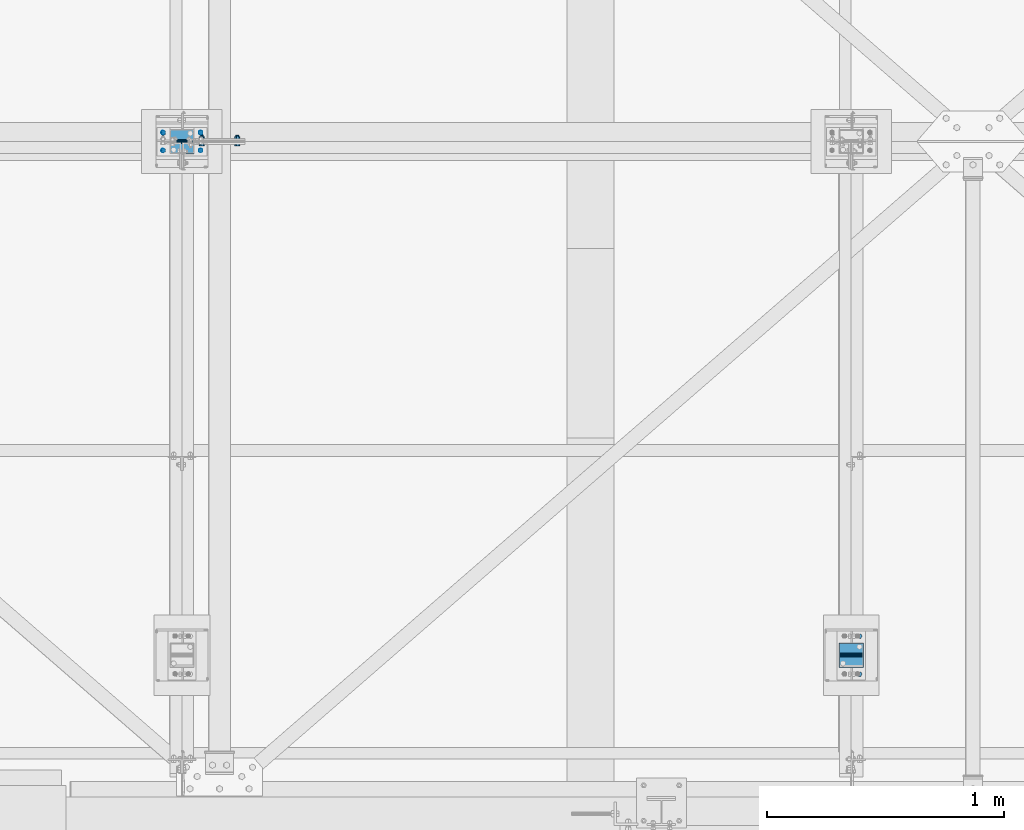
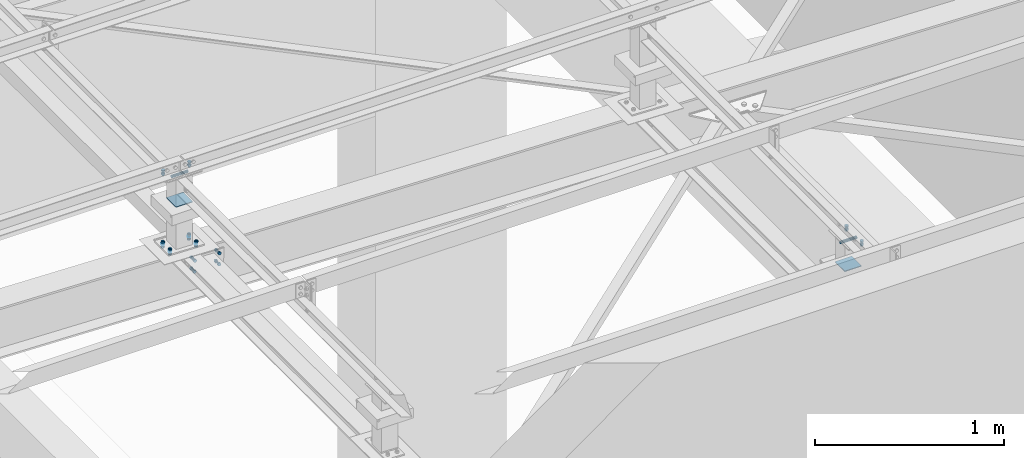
# One storey, part 229 of 3134: 9 mechanical fasteners, 7 elements without a shape of their own.
"""IFC2X3 building model written with IfcOpenShell, lengths in millimetres."""

from ifc_helpers import new_model, si_unit, frame, origin_with_axes, place, context, subcontext, project, spatial, faceted_brep, source, transform, mapped, material, type_object, element, aggregate, save


model = new_model("IFC2X3")

# Units and contexts
model_context = context("Model", 3, precision=1e-05, world=origin_with_axes())
body_context = subcontext(model_context, "Body", "Model", "MODEL_VIEW")
ifc_project = project(units=[si_unit("LENGTHUNIT", "METRE", prefix="MILLI"), si_unit("AREAUNIT", "SQUARE_METRE"), si_unit("VOLUMEUNIT", "CUBIC_METRE"), si_unit("MASSUNIT", "GRAM", prefix="KILO"), si_unit("TIMEUNIT", "SECOND"), si_unit("PLANEANGLEUNIT", "RADIAN"), si_unit("SOLIDANGLEUNIT", "STERADIAN"), si_unit("THERMODYNAMICTEMPERATUREUNIT", "DEGREE_CELSIUS"), si_unit("LUMINOUSINTENSITYUNIT", "LUMEN")], contexts=[model_context])

# Site, building, storey
site_placement = place(None, origin_with_axes())
site = spatial("IfcSite", under=ifc_project, at=site_placement, CompositionType="ELEMENT")
building_placement = place(site_placement, origin_with_axes())
building = spatial("IfcBuilding", under=site, at=building_placement, Name="Undefined", CompositionType="ELEMENT")
storey_placement = place(building_placement, origin_with_axes())
storey = spatial("IfcBuildingStorey", under=building, at=storey_placement, Name="Undefined", CompositionType="ELEMENT", Elevation=0.0)

# Assembly, mechanical fastener
assembly_1_placement = place(storey_placement, origin_with_axes())
assembly_1 = element("IfcElementAssembly", 1, at=assembly_1_placement, inside=storey, AssemblyPlace="NOTDEFINED", PredefinedType="RIGID_FRAME")
ifc_material_1 = material(Name="8.8")
mechanical_fastener_type = type_object("IfcMechanicalFastenerType", Name="Bolt assembly")
shared_shape_1 = source(origin_with_axes(), body_context, "Body", "Brep", [
    faceted_brep([(10.9696551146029, -14.0, 0.0), (5.48482755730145, -14.0, 9.5), (-5.48482755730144, -14.0, 9.5), (-10.9696551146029, -14.0, 1.34339530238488e-15), (-5.48482755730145, -14.0, -9.5), (5.48482755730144, -14.0, -9.50000000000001), (5.48482755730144, -6.0, -9.50000000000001), (-5.48482755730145, -6.0, -9.5), (-10.9696551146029, -6.0, 1.34339530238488e-15), (-5.48482755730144, -6.0, 9.5), (5.48482755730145, -6.0, 9.5), (10.9696551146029, -6.0, 0.0), (6.0, -6.0, 0.0), (5.19615242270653, -6.0, 3.00000000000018), (2.99999999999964, -6.0, 5.19615242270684), (-6.21801588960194e-13, -6.0, 6.0), (-3.00000000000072, -6.0, 5.19615242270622), (-5.19615242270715, -6.0, 2.9999999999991), (-6.0, -6.0, -1.24360317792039e-12), (-5.19615242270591, -6.0, -3.00000000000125), (-2.99999999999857, -6.0, -5.19615242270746), (1.85874342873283e-12, -6.0, -6.0), (3.00000000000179, -6.0, -5.1961524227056), (5.19615242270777, -6.0, -2.99999999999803), (5.19615242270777, 24.0, -2.99999999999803), (3.00000000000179, 24.0, -5.1961524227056), (1.85874342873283e-12, 24.0, -6.0), (-2.99999999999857, 24.0, -5.19615242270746), (-5.19615242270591, 24.0, -3.00000000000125), (-6.0, 24.0, -1.24360317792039e-12), (-5.19615242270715, 24.0, 2.9999999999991), (-3.00000000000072, 24.0, 5.19615242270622), (-6.21801588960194e-13, 24.0, 6.0), (2.99999999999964, 24.0, 5.19615242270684), (5.19615242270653, 24.0, 3.00000000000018), (6.0, 24.0, 0.0), (10.9696551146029, 6.00000000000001, 0.0), (5.48482755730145, 6.00000000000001, 9.5), (-5.48482755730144, 6.00000000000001, 9.5), (-10.9696551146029, 6.00000000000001, 1.34339530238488e-15), (-5.48482755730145, 6.00000000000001, -9.5), (5.48482755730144, 6.00000000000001, -9.50000000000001), (5.48482755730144, 16.0, -9.50000000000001), (-5.48482755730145, 16.0, -9.5), (-10.9696551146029, 16.0, 1.34339530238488e-15), (-5.48482755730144, 16.0, 9.5), (5.48482755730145, 16.0, 9.5), (10.9696551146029, 16.0, 0.0)], [[[0, 1, 2, 3, 4, 5]], [[6, 7, 8, 9, 10, 11]], [[0, 11, 10, 1]], [[1, 10, 9, 2]], [[2, 9, 8, 3]], [[3, 8, 7, 4]], [[4, 7, 6, 5]], [[5, 6, 11, 0]], [[12, 13, 14, 15, 16, 17, 18, 19, 20, 21, 22, 23]], [[24, 25, 26, 27, 28, 29, 30, 31, 32, 33, 34, 35]], [[12, 35, 34, 13]], [[13, 34, 33, 14]], [[14, 33, 32, 15]], [[15, 32, 31, 16]], [[16, 31, 30, 17]], [[17, 30, 29, 18]], [[18, 29, 28, 19]], [[19, 28, 27, 20]], [[20, 27, 26, 21]], [[21, 26, 25, 22]], [[22, 25, 24, 23]], [[23, 24, 35, 12]], [[36, 37, 38, 39, 40, 41]], [[42, 43, 44, 45, 46, 47]], [[36, 47, 46, 37]], [[37, 46, 45, 38]], [[38, 45, 44, 39]], [[39, 44, 43, 40]], [[40, 43, 42, 41]], [[41, 42, 47, 36]]]),
    faceted_brep([(7.0, -0.1, 0.0), (6.06217782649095, -0.1, 3.50000000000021), (3.49999999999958, -0.1, 6.06217782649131), (-7.25435187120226e-13, -0.1, 7.0), (-3.50000000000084, -0.1, 6.06217782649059), (-6.06217782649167, -0.1, 3.49999999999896), (-7.0, -0.1, -1.45087037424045e-12), (-6.06217782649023, -0.1, -3.50000000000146), (-3.49999999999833, -0.1, -6.06217782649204), (2.1685340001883e-12, -0.1, -7.0), (3.50000000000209, -0.1, -6.06217782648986), (6.0621778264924, -0.1, -3.4999999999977), (6.0621778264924, 6.00000000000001, -3.4999999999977), (3.50000000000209, 6.00000000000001, -6.06217782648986), (2.1685340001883e-12, 6.00000000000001, -7.0), (-3.49999999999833, 6.00000000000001, -6.06217782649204), (-6.06217782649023, 6.00000000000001, -3.50000000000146), (-7.0, 6.00000000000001, -1.45087037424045e-12), (-6.06217782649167, 6.00000000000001, 3.49999999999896), (-3.50000000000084, 6.00000000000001, 6.06217782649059), (-7.25435187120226e-13, 6.00000000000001, 7.0), (3.49999999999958, 6.00000000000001, 6.06217782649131), (6.06217782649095, 6.00000000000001, 3.50000000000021), (7.0, 6.00000000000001, 0.0), (7.0, -5.9, 0.0), (6.06217782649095, -5.9, 3.50000000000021), (3.49999999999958, -5.9, 6.06217782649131), (-7.25435187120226e-13, -5.9, 7.0), (-3.50000000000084, -5.9, 6.06217782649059), (-6.06217782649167, -5.9, 3.49999999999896), (-7.0, -5.9, -1.45087037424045e-12), (-6.06217782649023, -5.9, -3.50000000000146), (-3.49999999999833, -5.9, -6.06217782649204), (2.1685340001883e-12, -5.9, -7.0), (3.50000000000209, -5.9, -6.06217782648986), (6.0621778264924, -5.9, -3.4999999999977), (6.0621778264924, 0.0999999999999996, -3.4999999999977), (3.50000000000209, 0.0999999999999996, -6.06217782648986), (2.1685340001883e-12, 0.0999999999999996, -7.0), (-3.49999999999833, 0.0999999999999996, -6.06217782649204), (-6.06217782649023, 0.0999999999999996, -3.50000000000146), (-7.0, 0.0999999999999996, -1.45087037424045e-12), (-6.06217782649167, 0.0999999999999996, 3.49999999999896), (-3.50000000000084, 0.0999999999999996, 6.06217782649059), (-7.25435187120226e-13, 0.0999999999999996, 7.0), (3.49999999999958, 0.0999999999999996, 6.06217782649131), (6.06217782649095, 0.0999999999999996, 3.50000000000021), (7.0, 0.0999999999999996, 0.0)], [[[0, 1, 2, 3, 4, 5, 6, 7, 8, 9, 10, 11]], [[12, 13, 14, 15, 16, 17, 18, 19, 20, 21, 22, 23]], [[0, 23, 22, 1]], [[1, 22, 21, 2]], [[2, 21, 20, 3]], [[3, 20, 19, 4]], [[4, 19, 18, 5]], [[5, 18, 17, 6]], [[6, 17, 16, 7]], [[7, 16, 15, 8]], [[8, 15, 14, 9]], [[9, 14, 13, 10]], [[10, 13, 12, 11]], [[11, 12, 23, 0]], [[24, 25, 26, 27, 28, 29, 30, 31, 32, 33, 34, 35]], [[36, 37, 38, 39, 40, 41, 42, 43, 44, 45, 46, 47]], [[24, 47, 46, 25]], [[25, 46, 45, 26]], [[26, 45, 44, 27]], [[27, 44, 43, 28]], [[28, 43, 42, 29]], [[29, 42, 41, 30]], [[30, 41, 40, 31]], [[31, 40, 39, 32]], [[32, 39, 38, 33]], [[33, 38, 37, 34]], [[34, 37, 36, 35]], [[35, 36, 47, 24]]]),
])
mechanical_fastener_1_placement = place(assembly_1_placement, frame((28882.0, 50520.0, 10765.0), z_axis=(0.0, -1.0, 0.0), x_axis=(-1.0, 0.0, 0.0)))
mechanical_fastener_1 = element("IfcMechanicalFastener", 2, at=mechanical_fastener_1_placement, type_object=mechanical_fastener_type, material=ifc_material_1, Name="Bolt assembly", NominalDiameter=12.0, NominalLength=30.0, context=body_context, shape_type="MappedRepresentation", body=[
    mapped(shared_shape_1, transform((0.0, -5.32963895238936e-10, -79.9999999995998))),
    mapped(shared_shape_1, transform((0.0, 5.3114490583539e-10, 79.9999999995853))),
])
aggregate(assembly_1, [mechanical_fastener_1])

assembly_2_placement = place(storey_placement, origin_with_axes())
assembly_2 = element("IfcElementAssembly", 3, at=assembly_2_placement, inside=storey, AssemblyPlace="NOTDEFINED", PredefinedType="RIGID_FRAME")
mechanical_fastener_2_placement = place(assembly_2_placement, frame((26019.0, 52725.0, 10865.0), z_axis=(1.0, 0.0, 0.0), x_axis=(0.0, -1.0, 0.0)))
mechanical_fastener_2 = element("IfcMechanicalFastener", 4, at=mechanical_fastener_2_placement, type_object=mechanical_fastener_type, material=ifc_material_1, Name="Bolt assembly", NominalDiameter=12.0, NominalLength=30.0, context=body_context, shape_type="MappedRepresentation", body=[
    mapped(shared_shape_1, transform((0.0, -5.32963895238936e-10, -79.9999999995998))),
    mapped(shared_shape_1, transform((0.0, 5.3114490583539e-10, 79.9999999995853))),
])
aggregate(assembly_2, [mechanical_fastener_2])

assembly_3_placement = place(storey_placement, origin_with_axes())
assembly_3 = element("IfcElementAssembly", 5, at=assembly_3_placement, inside=storey, AssemblyPlace="NOTDEFINED", PredefinedType="RIGID_FRAME")
shared_shape_2 = source(origin_with_axes(), body_context, "Body", "Brep", [
    faceted_brep([(7.0, 13.0000253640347, 0.0), (6.06217782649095, 13.0000253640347, 3.50000000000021), (3.49999999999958, 13.0000253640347, 6.06217782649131), (-7.25435187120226e-13, 13.0000253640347, 7.0), (-3.50000000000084, 13.0000253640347, 6.06217782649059), (-6.06217782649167, 13.0000253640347, 3.49999999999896), (-7.0, 13.0000253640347, -1.45087037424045e-12), (-6.06217782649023, 13.0000253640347, -3.50000000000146), (-3.49999999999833, 13.0000253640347, -6.06217782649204), (2.1685340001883e-12, 13.0000253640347, -7.0), (3.50000000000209, 13.0000253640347, -6.06217782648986), (6.0621778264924, 13.0000253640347, -3.4999999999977), (6.0621778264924, 15.0999999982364, -3.4999999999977), (3.50000000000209, 15.0999999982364, -6.06217782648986), (2.1685340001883e-12, 15.0999999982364, -7.0), (-3.49999999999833, 15.0999999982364, -6.06217782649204), (-6.06217782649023, 15.0999999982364, -3.50000000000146), (-7.0, 15.0999999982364, -1.45087037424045e-12), (-6.06217782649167, 15.0999999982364, 3.49999999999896), (-3.50000000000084, 15.0999999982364, 6.06217782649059), (-7.25435187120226e-13, 15.0999999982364, 7.0), (3.49999999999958, 15.0999999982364, 6.06217782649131), (6.06217782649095, 15.0999999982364, 3.50000000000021), (7.0, 15.0999999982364, 0.0)], [[[0, 1, 2, 3, 4, 5, 6, 7, 8, 9, 10, 11]], [[12, 13, 14, 15, 16, 17, 18, 19, 20, 21, 22, 23]], [[0, 23, 22, 1]], [[1, 22, 21, 2]], [[2, 21, 20, 3]], [[3, 20, 19, 4]], [[4, 19, 18, 5]], [[5, 18, 17, 6]], [[6, 17, 16, 7]], [[7, 16, 15, 8]], [[8, 15, 14, 9]], [[9, 14, 13, 10]], [[10, 13, 12, 11]], [[11, 12, 23, 0]]]),
])
mechanical_fastener_3_placement = place(assembly_3_placement, frame((26018.2251187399, 52728.0, 10379.5372055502), z_axis=(-0.99951962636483, 0.0, 0.0309922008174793), x_axis=(0.0, -1.0, 0.0)))
mechanical_fastener_3 = element("IfcMechanicalFastener", 6, at=mechanical_fastener_3_placement, type_object=mechanical_fastener_type, material=ifc_material_1, Name="Bolt assembly", NominalDiameter=12.0, NominalLength=2.0, context=body_context, shape_type="MappedRepresentation", body=[
    mapped(shared_shape_2, transform((0.0, -5.32963895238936e-10, -79.9999999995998))),
    mapped(shared_shape_2, transform((76.0, -5.32963895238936e-10, -79.9999999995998))),
    mapped(shared_shape_2, transform((0.0, 5.3114490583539e-10, 79.9999999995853))),
    mapped(shared_shape_2, transform((76.0, 5.3114490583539e-10, 79.9999999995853))),
])
aggregate(assembly_3, [mechanical_fastener_3])

assembly_4_placement = place(storey_placement, origin_with_axes())
assembly_4 = element("IfcElementAssembly", 7, at=assembly_4_placement, inside=storey, AssemblyPlace="NOTDEFINED", PredefinedType="RIGID_FRAME")
shared_shape_3 = source(origin_with_axes(), body_context, "Body", "Brep", [
    faceted_brep([(9.0, -50.0, 0.0), (7.79422863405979, -50.0, 4.50000000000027), (4.49999999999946, -50.0, 7.79422863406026), (-9.3270238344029e-13, -50.0, 9.0), (-4.50000000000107, -50.0, 7.79422863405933), (-7.79422863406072, -50.0, 4.49999999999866), (-9.0, -50.0, -1.86540476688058e-12), (-7.79422863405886, -50.0, -4.50000000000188), (-4.49999999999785, -50.0, -7.79422863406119), (2.78811514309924e-12, -50.0, -9.0), (4.50000000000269, -50.0, -7.7942286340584), (7.79422863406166, -50.0, -4.49999999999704), (7.79422863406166, 50.1, -4.49999999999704), (4.50000000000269, 50.1, -7.7942286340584), (2.78811514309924e-12, 50.1, -9.0), (-4.49999999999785, 50.1, -7.79422863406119), (-7.79422863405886, 50.1, -4.50000000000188), (-9.0, 50.1, -1.86540476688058e-12), (-7.79422863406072, 50.1, 4.49999999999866), (-4.50000000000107, 50.1, 7.79422863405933), (-9.3270238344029e-13, 50.1, 9.0), (4.49999999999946, 50.1, 7.79422863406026), (7.79422863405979, 50.1, 4.50000000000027), (9.0, 50.1, 0.0)], [[[0, 1, 2, 3, 4, 5, 6, 7, 8, 9, 10, 11]], [[12, 13, 14, 15, 16, 17, 18, 19, 20, 21, 22, 23]], [[0, 23, 22, 1]], [[1, 22, 21, 2]], [[2, 21, 20, 3]], [[3, 20, 19, 4]], [[4, 19, 18, 5]], [[5, 18, 17, 6]], [[6, 17, 16, 7]], [[7, 16, 15, 8]], [[8, 15, 14, 9]], [[9, 14, 13, 10]], [[10, 13, 12, 11]], [[11, 12, 23, 0]]]),
])
mechanical_fastener_4_placement = place(assembly_4_placement, frame((28847.0, 50520.0, 10745.0), z_axis=(0.0, 1.0, 0.0), x_axis=(0.0, 0.0, 1.0)))
mechanical_fastener_4 = element("IfcMechanicalFastener", 8, at=mechanical_fastener_4_placement, type_object=mechanical_fastener_type, material=ifc_material_1, Name="Bolt assembly", NominalDiameter=16.0, NominalLength=100.0, context=body_context, shape_type="MappedRepresentation", body=[
    mapped(shared_shape_3, transform((0.0, 0.0, 0.0))),
])

assembly_5_placement = place(storey_placement, origin_with_axes())
assembly_5 = element("IfcElementAssembly", 9, at=assembly_5_placement, inside=storey, AssemblyPlace="NOTDEFINED", PredefinedType="RIGID_FRAME")
mechanical_fastener_5_placement = place(assembly_5_placement, frame((26019.0, 52690.0, 10845.0), z_axis=(0.0, 1.0, 0.0), x_axis=(0.0, 0.0, 1.0)))
mechanical_fastener_5 = element("IfcMechanicalFastener", 10, at=mechanical_fastener_5_placement, type_object=mechanical_fastener_type, material=ifc_material_1, Name="Bolt assembly", NominalDiameter=16.0, NominalLength=100.0, context=body_context, shape_type="MappedRepresentation", body=[
    mapped(shared_shape_3, transform((0.0, 0.0, 0.0))),
])

# Mechanical fastener
ifc_material_2 = material(Name="6.8")
shared_shape_4 = source(origin_with_axes(), body_context, "Body", "Brep", [
    faceted_brep([(51.5, 1.36424205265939e-12, 50.0), (51.3858192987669, 1.36424205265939e-12, 50.5740251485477), (51.0606601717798, 1.36424205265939e-12, 51.0606601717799), (50.5740251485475, 1.36424205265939e-12, 51.385819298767), (-50.0000000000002, 1.36424205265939e-12, 51.5), (-50.7500000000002, 1.36424205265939e-12, 51.2990381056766), (-51.2990381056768, 1.36424205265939e-12, 50.7499999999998), (-51.5, 1.36424205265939e-12, 49.9999999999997), (-51.5, 1.36424205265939e-12, -50.0000000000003), (-51.2990381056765, 1.36424205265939e-12, -50.7500000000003), (-50.7499999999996, 1.36424205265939e-12, -51.2990381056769), (-49.9999999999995, 1.36424205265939e-12, -51.5), (50.0000000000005, 1.36424205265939e-12, -51.5), (50.7500000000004, 1.36424205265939e-12, -51.2990381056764), (51.2990381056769, 1.36424205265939e-12, -50.7499999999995), (51.5, 1.36424205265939e-12, -49.9999999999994), (51.5, 5.10000000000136, -49.9999999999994), (51.2990381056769, 5.10000000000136, -50.7499999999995), (50.7500000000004, 5.10000000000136, -51.2990381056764), (50.0000000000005, 5.10000000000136, -51.5), (-49.9999999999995, 5.10000000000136, -51.5), (-50.7499999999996, 5.10000000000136, -51.2990381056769), (-51.2990381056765, 5.10000000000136, -50.7500000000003), (-51.5, 5.10000000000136, -50.0000000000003), (-51.5, 5.10000000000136, 49.9999999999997), (-51.2990381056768, 5.10000000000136, 50.7499999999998), (-50.7500000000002, 5.10000000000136, 51.2990381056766), (-50.0000000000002, 5.10000000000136, 51.5), (50.5740251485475, 5.10000000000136, 51.385819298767), (51.0606601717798, 5.10000000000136, 51.0606601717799), (51.3858192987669, 5.10000000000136, 50.5740251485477), (51.5, 5.10000000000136, 50.0)], [[[0, 1, 2, 3, 4, 5, 6, 7, 8, 9, 10, 11, 12, 13, 14, 15]], [[16, 17, 18, 19, 20, 21, 22, 23, 24, 25, 26, 27, 28, 29, 30, 31]], [[0, 31, 30, 1]], [[1, 30, 29, 2]], [[2, 29, 28, 3]], [[3, 28, 27, 4]], [[4, 27, 26, 5]], [[5, 26, 25, 6]], [[6, 25, 24, 7]], [[7, 24, 23, 8]], [[8, 23, 22, 9]], [[9, 22, 21, 10]], [[10, 21, 20, 11]], [[11, 20, 19, 12]], [[12, 19, 18, 13]], [[13, 18, 17, 14]], [[14, 17, 16, 15]], [[15, 16, 31, 0]]]),
])
mechanical_fastener_6_placement = place(assembly_4_placement, frame((28847.0, 50520.0, 10591.54), z_axis=(0.0, -1.0, 0.0), x_axis=(-1.0, 0.0, 0.0)))
mechanical_fastener_6 = element("IfcMechanicalFastener", 11, at=mechanical_fastener_6_placement, type_object=mechanical_fastener_type, material=ifc_material_2, Name="Bolt assembly", NominalDiameter=10.0, NominalLength=5.0, context=body_context, shape_type="MappedRepresentation", body=[
    mapped(shared_shape_4, transform((0.0, 0.0, 0.0))),
])

aggregate(assembly_4, [mechanical_fastener_4, mechanical_fastener_6])

mechanical_fastener_7_placement = place(assembly_5_placement, frame((26019.0, 52690.0, 10679.21), z_axis=(0.0, -1.0, 0.0), x_axis=(-1.0, 0.0, 0.0)))
mechanical_fastener_7 = element("IfcMechanicalFastener", 12, at=mechanical_fastener_7_placement, type_object=mechanical_fastener_type, material=ifc_material_2, Name="Bolt assembly", NominalDiameter=10.0, NominalLength=5.0, context=body_context, shape_type="MappedRepresentation", body=[
    mapped(shared_shape_4, transform((0.0, 0.0, 0.0))),
])

aggregate(assembly_5, [mechanical_fastener_5, mechanical_fastener_7])

# Assembly, mechanical fastener
assembly_6_placement = place(storey_placement, origin_with_axes())
assembly_6 = element("IfcElementAssembly", 13, at=assembly_6_placement, inside=storey, AssemblyPlace="NOTDEFINED", PredefinedType="RIGID_FRAME")
shared_shape_5 = source(origin_with_axes(), body_context, "Body", "Brep", [
    faceted_brep([(10.9696551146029, -19.75, 0.0), (5.48482755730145, -19.75, 9.5), (-5.48482755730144, -19.75, 9.5), (-10.9696551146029, -19.75, 1.34339530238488e-15), (-5.48482755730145, -19.75, -9.5), (5.48482755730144, -19.75, -9.50000000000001), (5.48482755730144, -11.75, -9.50000000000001), (-5.48482755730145, -11.75, -9.5), (-10.9696551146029, -11.75, 1.34339530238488e-15), (-5.48482755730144, -11.75, 9.5), (5.48482755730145, -11.75, 9.5), (10.9696551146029, -11.75, 0.0), (6.0, -11.75, 0.0), (5.19615242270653, -11.75, 3.00000000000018), (2.99999999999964, -11.75, 5.19615242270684), (-6.21801588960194e-13, -11.75, 6.0), (-3.00000000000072, -11.75, 5.19615242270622), (-5.19615242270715, -11.75, 2.9999999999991), (-6.0, -11.75, -1.24360317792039e-12), (-5.19615242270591, -11.75, -3.00000000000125), (-2.99999999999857, -11.75, -5.19615242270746), (1.85874342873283e-12, -11.75, -6.0), (3.00000000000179, -11.75, -5.1961524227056), (5.19615242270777, -11.75, -2.99999999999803), (5.19615242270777, 28.25, -2.99999999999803), (3.00000000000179, 28.25, -5.1961524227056), (1.85874342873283e-12, 28.25, -6.0), (-2.99999999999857, 28.25, -5.19615242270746), (-5.19615242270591, 28.25, -3.00000000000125), (-6.0, 28.25, -1.24360317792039e-12), (-5.19615242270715, 28.25, 2.9999999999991), (-3.00000000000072, 28.25, 5.19615242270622), (-6.21801588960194e-13, 28.25, 6.0), (2.99999999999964, 28.25, 5.19615242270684), (5.19615242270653, 28.25, 3.00000000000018), (6.0, 28.25, 0.0), (10.9696551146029, 11.75, 0.0), (5.48482755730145, 11.75, 9.5), (-5.48482755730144, 11.75, 9.5), (-10.9696551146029, 11.75, 1.34339530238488e-15), (-5.48482755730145, 11.75, -9.5), (5.48482755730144, 11.75, -9.50000000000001), (5.48482755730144, 21.75, -9.50000000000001), (-5.48482755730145, 21.75, -9.5), (-10.9696551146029, 21.75, 1.34339530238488e-15), (-5.48482755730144, 21.75, 9.5), (5.48482755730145, 21.75, 9.5), (10.9696551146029, 21.75, 0.0)], [[[0, 1, 2, 3, 4, 5]], [[6, 7, 8, 9, 10, 11]], [[0, 11, 10, 1]], [[1, 10, 9, 2]], [[2, 9, 8, 3]], [[3, 8, 7, 4]], [[4, 7, 6, 5]], [[5, 6, 11, 0]], [[12, 13, 14, 15, 16, 17, 18, 19, 20, 21, 22, 23]], [[24, 25, 26, 27, 28, 29, 30, 31, 32, 33, 34, 35]], [[12, 35, 34, 13]], [[13, 34, 33, 14]], [[14, 33, 32, 15]], [[15, 32, 31, 16]], [[16, 31, 30, 17]], [[17, 30, 29, 18]], [[18, 29, 28, 19]], [[19, 28, 27, 20]], [[20, 27, 26, 21]], [[21, 26, 25, 22]], [[22, 25, 24, 23]], [[23, 24, 35, 12]], [[36, 37, 38, 39, 40, 41]], [[42, 43, 44, 45, 46, 47]], [[36, 47, 46, 37]], [[37, 46, 45, 38]], [[38, 45, 44, 39]], [[39, 44, 43, 40]], [[40, 43, 42, 41]], [[41, 42, 47, 36]]]),
    faceted_brep([(7.0, -3.75, 0.0), (6.06217782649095, -3.75, 3.50000000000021), (3.49999999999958, -3.75, 6.06217782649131), (-7.25435187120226e-13, -3.75, 7.0), (-3.50000000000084, -3.75, 6.06217782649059), (-6.06217782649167, -3.75, 3.49999999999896), (-7.0, -3.75, -1.45087037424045e-12), (-6.06217782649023, -3.75, -3.50000000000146), (-3.49999999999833, -3.75, -6.06217782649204), (2.1685340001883e-12, -3.75, -7.0), (3.50000000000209, -3.75, -6.06217782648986), (6.0621778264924, -3.75, -3.4999999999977), (6.0621778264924, 3.75, -3.4999999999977), (3.50000000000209, 3.75, -6.06217782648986), (2.1685340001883e-12, 3.75, -7.0), (-3.49999999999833, 3.75, -6.06217782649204), (-6.06217782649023, 3.75, -3.50000000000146), (-7.0, 3.75, -1.45087037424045e-12), (-6.06217782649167, 3.75, 3.49999999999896), (-3.50000000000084, 3.75, 6.06217782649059), (-7.25435187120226e-13, 3.75, 7.0), (3.49999999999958, 3.75, 6.06217782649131), (6.06217782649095, 3.75, 3.50000000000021), (7.0, 3.75, 0.0), (7.0, -11.65, 0.0), (6.06217782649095, -11.65, 3.50000000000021), (3.49999999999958, -11.65, 6.06217782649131), (-7.25435187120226e-13, -11.65, 7.0), (-3.50000000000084, -11.65, 6.06217782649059), (-6.06217782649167, -11.65, 3.49999999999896), (-7.0, -11.65, -1.45087037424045e-12), (-6.06217782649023, -11.65, -3.50000000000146), (-3.49999999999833, -11.65, -6.06217782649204), (2.1685340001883e-12, -11.65, -7.0), (3.50000000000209, -11.65, -6.06217782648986), (6.0621778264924, -11.65, -3.4999999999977), (6.0621778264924, -3.65, -3.4999999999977), (3.50000000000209, -3.65, -6.06217782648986), (2.1685340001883e-12, -3.65, -7.0), (-3.49999999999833, -3.65, -6.06217782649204), (-6.06217782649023, -3.65, -3.50000000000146), (-7.0, -3.65, -1.45087037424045e-12), (-6.06217782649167, -3.65, 3.49999999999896), (-3.50000000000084, -3.65, 6.06217782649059), (-7.25435187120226e-13, -3.65, 7.0), (3.49999999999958, -3.65, 6.06217782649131), (6.06217782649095, -3.65, 3.50000000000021), (7.0, -3.65, 0.0), (7.0, 3.65000002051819, 0.0), (6.06217782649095, 3.65000002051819, 3.50000000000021), (3.49999999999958, 3.65000002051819, 6.06217782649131), (-7.25435187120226e-13, 3.65000002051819, 7.0), (-3.50000000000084, 3.65000002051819, 6.06217782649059), (-6.06217782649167, 3.65000002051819, 3.49999999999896), (-7.0, 3.65000002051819, -1.45087037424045e-12), (-6.06217782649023, 3.65000002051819, -3.50000000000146), (-3.49999999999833, 3.65000002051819, -6.06217782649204), (2.1685340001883e-12, 3.65000002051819, -7.0), (3.50000000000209, 3.65000002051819, -6.06217782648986), (6.0621778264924, 3.65000002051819, -3.4999999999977), (6.0621778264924, 11.75, -3.4999999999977), (3.50000000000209, 11.75, -6.06217782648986), (2.1685340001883e-12, 11.75, -7.0), (-3.49999999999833, 11.75, -6.06217782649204), (-6.06217782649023, 11.75, -3.50000000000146), (-7.0, 11.75, -1.45087037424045e-12), (-6.06217782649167, 11.75, 3.49999999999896), (-3.50000000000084, 11.75, 6.06217782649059), (-7.25435187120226e-13, 11.75, 7.0), (3.49999999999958, 11.75, 6.06217782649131), (6.06217782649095, 11.75, 3.50000000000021), (7.0, 11.75, 0.0)], [[[0, 1, 2, 3, 4, 5, 6, 7, 8, 9, 10, 11]], [[12, 13, 14, 15, 16, 17, 18, 19, 20, 21, 22, 23]], [[0, 23, 22, 1]], [[1, 22, 21, 2]], [[2, 21, 20, 3]], [[3, 20, 19, 4]], [[4, 19, 18, 5]], [[5, 18, 17, 6]], [[6, 17, 16, 7]], [[7, 16, 15, 8]], [[8, 15, 14, 9]], [[9, 14, 13, 10]], [[10, 13, 12, 11]], [[11, 12, 23, 0]], [[24, 25, 26, 27, 28, 29, 30, 31, 32, 33, 34, 35]], [[36, 37, 38, 39, 40, 41, 42, 43, 44, 45, 46, 47]], [[24, 47, 46, 25]], [[25, 46, 45, 26]], [[26, 45, 44, 27]], [[27, 44, 43, 28]], [[28, 43, 42, 29]], [[29, 42, 41, 30]], [[30, 41, 40, 31]], [[31, 40, 39, 32]], [[32, 39, 38, 33]], [[33, 38, 37, 34]], [[34, 37, 36, 35]], [[35, 36, 47, 24]], [[48, 49, 50, 51, 52, 53, 54, 55, 56, 57, 58, 59]], [[60, 61, 62, 63, 64, 65, 66, 67, 68, 69, 70, 71]], [[48, 71, 70, 49]], [[49, 70, 69, 50]], [[50, 69, 68, 51]], [[51, 68, 67, 52]], [[52, 67, 66, 53]], [[53, 66, 65, 54]], [[54, 65, 64, 55]], [[55, 64, 63, 56]], [[56, 63, 62, 57]], [[57, 62, 61, 58]], [[58, 61, 60, 59]], [[59, 60, 71, 48]]]),
])
mechanical_fastener_8_placement = place(assembly_6_placement, frame((26102.5292495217, 52690.0, 10229.8547317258), z_axis=(0.0309851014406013, 0.0, 0.999519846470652), x_axis=(0.999519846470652, 0.0, -0.0309851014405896)))
mechanical_fastener_8 = element("IfcMechanicalFastener", 14, at=mechanical_fastener_8_placement, type_object=mechanical_fastener_type, material=ifc_material_1, Name="Bolt assembly", NominalDiameter=12.0, NominalLength=40.0, context=body_context, shape_type="MappedRepresentation", body=[
    mapped(shared_shape_5, transform((0.0, 0.0, -35.0))),
    mapped(shared_shape_5, transform((150.000000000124, 0.0, -35.0000000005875))),
    mapped(shared_shape_5, transform((0.0, 0.0, 35.0))),
    mapped(shared_shape_5, transform((150.000000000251, 0.0, 34.9999999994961))),
])
aggregate(assembly_6, [mechanical_fastener_8])

assembly_7_placement = place(storey_placement, origin_with_axes())
assembly_7 = element("IfcElementAssembly", 15, at=assembly_7_placement, inside=storey, Name="IPE330", AssemblyPlace="NOTDEFINED", PredefinedType="RIGID_FRAME")
shared_shape_6 = source(origin_with_axes(), body_context, "Body", "Brep", [
    faceted_brep([(10.9696551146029, -6.49779207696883, 0.0), (5.48482755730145, -6.49779207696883, 9.5), (-5.48482755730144, -6.49779207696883, 9.5), (-10.9696551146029, -6.49779207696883, 1.34339530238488e-15), (-5.48482755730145, -6.49779207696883, -9.5), (5.48482755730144, -6.49779207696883, -9.50000000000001), (5.48482755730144, 1.50220792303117, -9.50000000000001), (-5.48482755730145, 1.50220792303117, -9.5), (-10.9696551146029, 1.50220792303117, 1.34339530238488e-15), (-5.48482755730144, 1.50220792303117, 9.5), (5.48482755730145, 1.50220792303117, 9.5), (10.9696551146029, 1.50220792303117, 0.0), (6.0, 1.50220792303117, 0.0), (5.19615242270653, 1.50220792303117, 3.00000000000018), (2.99999999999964, 1.50220792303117, 5.19615242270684), (-6.21801588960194e-13, 1.50220792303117, 6.0), (-3.00000000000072, 1.50220792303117, 5.19615242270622), (-5.19615242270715, 1.50220792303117, 2.9999999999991), (-6.0, 1.50220792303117, -1.24360317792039e-12), (-5.19615242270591, 1.50220792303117, -3.00000000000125), (-2.99999999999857, 1.50220792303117, -5.19615242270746), (1.85874342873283e-12, 1.50220792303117, -6.0), (3.00000000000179, 1.50220792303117, -5.1961524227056), (5.19615242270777, 1.50220792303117, -2.99999999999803), (5.19615242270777, 36.5022079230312, -2.99999999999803), (3.00000000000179, 36.5022079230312, -5.1961524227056), (1.85874342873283e-12, 36.5022079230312, -6.0), (-2.99999999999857, 36.5022079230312, -5.19615242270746), (-5.19615242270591, 36.5022079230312, -3.00000000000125), (-6.0, 36.5022079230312, -1.24360317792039e-12), (-5.19615242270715, 36.5022079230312, 2.9999999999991), (-3.00000000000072, 36.5022079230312, 5.19615242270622), (-6.21801588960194e-13, 36.5022079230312, 6.0), (2.99999999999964, 36.5022079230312, 5.19615242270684), (5.19615242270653, 36.5022079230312, 3.00000000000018), (6.0, 36.5022079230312, 0.0), (10.9696551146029, 23.0039050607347, 0.0), (5.48482755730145, 23.0039050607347, 9.5), (-5.48482755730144, 23.0039050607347, 9.5), (-10.9696551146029, 23.0039050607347, 1.34339530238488e-15), (-5.48482755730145, 23.0039050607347, -9.5), (5.48482755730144, 23.0039050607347, -9.50000000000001), (5.48482755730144, 33.0039050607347, -9.50000000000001), (-5.48482755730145, 33.0039050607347, -9.5), (-10.9696551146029, 33.0039050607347, 1.34339530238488e-15), (-5.48482755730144, 33.0039050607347, 9.5), (5.48482755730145, 33.0039050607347, 9.5), (10.9696551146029, 33.0039050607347, 0.0)], [[[0, 1, 2, 3, 4, 5]], [[6, 7, 8, 9, 10, 11]], [[0, 11, 10, 1]], [[1, 10, 9, 2]], [[2, 9, 8, 3]], [[3, 8, 7, 4]], [[4, 7, 6, 5]], [[5, 6, 11, 0]], [[12, 13, 14, 15, 16, 17, 18, 19, 20, 21, 22, 23]], [[24, 25, 26, 27, 28, 29, 30, 31, 32, 33, 34, 35]], [[12, 35, 34, 13]], [[13, 34, 33, 14]], [[14, 33, 32, 15]], [[15, 32, 31, 16]], [[16, 31, 30, 17]], [[17, 30, 29, 18]], [[18, 29, 28, 19]], [[19, 28, 27, 20]], [[20, 27, 26, 21]], [[21, 26, 25, 22]], [[22, 25, 24, 23]], [[23, 24, 35, 12]], [[36, 37, 38, 39, 40, 41]], [[42, 43, 44, 45, 46, 47]], [[36, 47, 46, 37]], [[37, 46, 45, 38]], [[38, 45, 44, 39]], [[39, 44, 43, 40]], [[40, 43, 42, 41]], [[41, 42, 47, 36]]]),
    faceted_brep([(7.0, 14.9039050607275, 0.0), (6.06217782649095, 14.9039050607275, 3.50000000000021), (3.49999999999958, 14.9039050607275, 6.06217782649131), (-7.25435187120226e-13, 14.9039050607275, 7.0), (-3.50000000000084, 14.9039050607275, 6.06217782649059), (-6.06217782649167, 14.9039050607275, 3.49999999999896), (-7.0, 14.9039050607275, -1.45087037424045e-12), (-6.06217782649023, 14.9039050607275, -3.50000000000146), (-3.49999999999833, 14.9039050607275, -6.06217782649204), (2.1685340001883e-12, 14.9039050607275, -7.0), (3.50000000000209, 14.9039050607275, -6.06217782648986), (6.0621778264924, 14.9039050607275, -3.4999999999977), (6.0621778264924, 23.0039050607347, -3.4999999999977), (3.50000000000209, 23.0039050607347, -6.06217782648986), (2.1685340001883e-12, 23.0039050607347, -7.0), (-3.49999999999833, 23.0039050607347, -6.06217782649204), (-6.06217782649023, 23.0039050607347, -3.50000000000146), (-7.0, 23.0039050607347, -1.45087037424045e-12), (-6.06217782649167, 23.0039050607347, 3.49999999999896), (-3.50000000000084, 23.0039050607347, 6.06217782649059), (-7.25435187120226e-13, 23.0039050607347, 7.0), (3.49999999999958, 23.0039050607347, 6.06217782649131), (6.06217782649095, 23.0039050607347, 3.50000000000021), (7.0, 23.0039050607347, 0.0), (7.0, 1.60220792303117, 0.0), (6.06217782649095, 1.60220792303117, 3.50000000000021), (3.49999999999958, 1.60220792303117, 6.06217782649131), (-7.25435187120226e-13, 1.60220792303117, 7.0), (-3.50000000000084, 1.60220792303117, 6.06217782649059), (-6.06217782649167, 1.60220792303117, 3.49999999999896), (-7.0, 1.60220792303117, -1.45087037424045e-12), (-6.06217782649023, 1.60220792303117, -3.50000000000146), (-3.49999999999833, 1.60220792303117, -6.06217782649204), (2.1685340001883e-12, 1.60220792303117, -7.0), (3.50000000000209, 1.60220792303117, -6.06217782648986), (6.0621778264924, 1.60220792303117, -3.4999999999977), (6.0621778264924, 13.1022079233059, -3.4999999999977), (3.50000000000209, 13.1022079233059, -6.06217782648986), (2.1685340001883e-12, 13.1022079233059, -7.0), (-3.49999999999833, 13.1022079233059, -6.06217782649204), (-6.06217782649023, 13.1022079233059, -3.50000000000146), (-7.0, 13.1022079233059, -1.45087037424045e-12), (-6.06217782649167, 13.1022079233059, 3.49999999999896), (-3.50000000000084, 13.1022079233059, 6.06217782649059), (-7.25435187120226e-13, 13.1022079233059, 7.0), (3.49999999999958, 13.1022079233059, 6.06217782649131), (6.06217782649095, 13.1022079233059, 3.50000000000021), (7.0, 13.1022079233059, 0.0)], [[[0, 1, 2, 3, 4, 5, 6, 7, 8, 9, 10, 11]], [[12, 13, 14, 15, 16, 17, 18, 19, 20, 21, 22, 23]], [[0, 23, 22, 1]], [[1, 22, 21, 2]], [[2, 21, 20, 3]], [[3, 20, 19, 4]], [[4, 19, 18, 5]], [[5, 18, 17, 6]], [[6, 17, 16, 7]], [[7, 16, 15, 8]], [[8, 15, 14, 9]], [[9, 14, 13, 10]], [[10, 13, 12, 11]], [[11, 12, 23, 0]], [[24, 25, 26, 27, 28, 29, 30, 31, 32, 33, 34, 35]], [[36, 37, 38, 39, 40, 41, 42, 43, 44, 45, 46, 47]], [[24, 47, 46, 25]], [[25, 46, 45, 26]], [[26, 45, 44, 27]], [[27, 44, 43, 28]], [[28, 43, 42, 29]], [[29, 42, 41, 30]], [[30, 41, 40, 31]], [[31, 40, 39, 32]], [[32, 39, 38, 33]], [[33, 38, 37, 34]], [[34, 37, 36, 35]], [[35, 36, 47, 24]]]),
])
mechanical_fastener_9_placement = place(assembly_7_placement, frame((26018.2251187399, 52728.0, 10379.5372055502), z_axis=(-0.99951962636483, 0.0, 0.0309922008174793), x_axis=(0.0, -1.0, 0.0)))
mechanical_fastener_9 = element("IfcMechanicalFastener", 16, at=mechanical_fastener_9_placement, type_object=mechanical_fastener_type, material=ifc_material_1, Name="Bolt assembly", NominalDiameter=12.0, NominalLength=35.0, context=body_context, shape_type="MappedRepresentation", body=[
    mapped(shared_shape_6, transform((0.0, -5.32963895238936e-10, -79.9999999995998))),
    mapped(shared_shape_6, transform((76.0, -5.32963895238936e-10, -79.9999999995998))),
    mapped(shared_shape_6, transform((0.0, 5.3114490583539e-10, 79.9999999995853))),
    mapped(shared_shape_6, transform((76.0, 5.3114490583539e-10, 79.9999999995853))),
])
aggregate(assembly_7, [mechanical_fastener_9])

save(model, "model.ifc")
